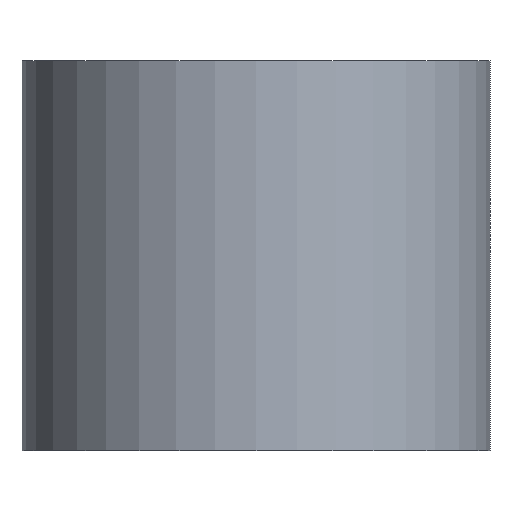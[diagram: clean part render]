
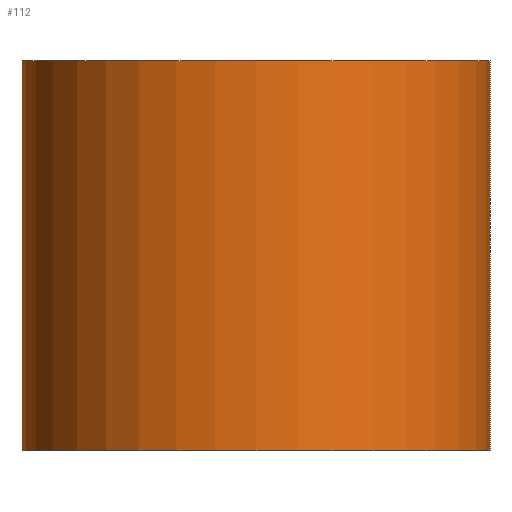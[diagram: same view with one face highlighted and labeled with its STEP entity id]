
A CAD part, front view. The second image highlights one B-rep face of the part: STEP entity #112.
In plain terms, the highlighted cylindrical face has radius 12 mm (diameter 24 mm), a partial arc.
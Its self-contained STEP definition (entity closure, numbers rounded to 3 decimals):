
#112=ADVANCED_FACE('',(#125),#119,.T.);
#119=CYLINDRICAL_SURFACE('',#254,12.);
#125=FACE_OUTER_BOUND('',#135,.T.);
#135=EDGE_LOOP('',(#177,#178,#179,#180));
#149=CIRCLE('',#250,12.);
#151=CIRCLE('',#253,12.);
#177=ORIENTED_EDGE('',*,*,#221,.T.);
#178=ORIENTED_EDGE('',*,*,#222,.F.);
#179=ORIENTED_EDGE('',*,*,#223,.F.);
#180=ORIENTED_EDGE('',*,*,#219,.T.);
#203=VERTEX_POINT('',#344);
#204=VERTEX_POINT('',#345);
#205=VERTEX_POINT('',#349);
#206=VERTEX_POINT('',#351);
#219=EDGE_CURVE('',#203,#204,#149,.T.);
#221=EDGE_CURVE('',#204,#205,#231,.T.);
#222=EDGE_CURVE('',#206,#205,#151,.T.);
#223=EDGE_CURVE('',#203,#206,#232,.T.);
#231=LINE('',#348,#235);
#232=LINE('',#352,#236);
#235=VECTOR('',#298,1.);
#236=VECTOR('',#301,1.);
#250=AXIS2_PLACEMENT_3D('',#343,#292,#293);
#253=AXIS2_PLACEMENT_3D('',#350,#299,#300);
#254=AXIS2_PLACEMENT_3D('',#353,#302,#303);
#292=DIRECTION('',(0.,0.,1.));
#293=DIRECTION('',(0.,1.,0.));
#298=DIRECTION('',(0.,0.,1.));
#299=DIRECTION('',(0.,0.,1.));
#300=DIRECTION('',(0.,1.,0.));
#301=DIRECTION('',(0.,0.,1.));
#302=DIRECTION('',(0.,0.,1.));
#303=DIRECTION('',(0.,-1.,0.));
#343=CARTESIAN_POINT('',(0.,0.,-20.));
#344=CARTESIAN_POINT('',(-12.,0.,-20.));
#345=CARTESIAN_POINT('',(12.,0.,-20.));
#348=CARTESIAN_POINT('',(12.,0.,0.));
#349=CARTESIAN_POINT('',(12.,0.,0.));
#350=CARTESIAN_POINT('',(0.,0.,0.));
#351=CARTESIAN_POINT('',(-12.,0.,0.));
#352=CARTESIAN_POINT('',(-12.,0.,0.));
#353=CARTESIAN_POINT('',(0.,0.,-20.));
